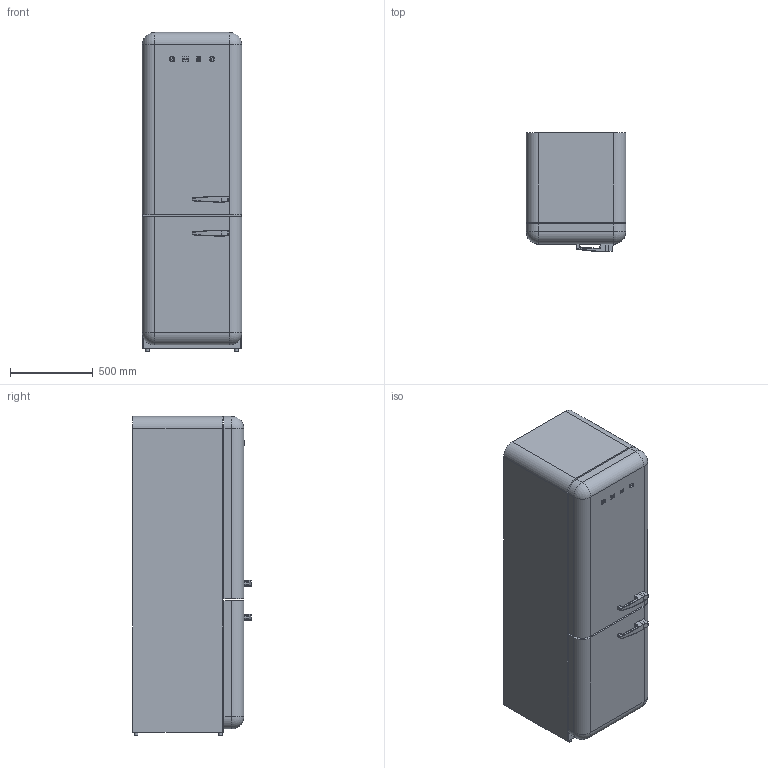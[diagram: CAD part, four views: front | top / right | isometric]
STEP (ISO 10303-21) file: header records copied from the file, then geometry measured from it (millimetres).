
FILE_DESCRIPTION(/* description */ (''),/* implementation_level */ '2;1');
FILE_NAME(/* name */ 'FAB32S.stp',/* time_stamp */ '2017-09-29T09:17:50+02:00',/* author */ (''),/* organization */ (''),/* preprocessor_version */ 'ST-DEVELOPER v16',/* originating_system */ 'SIEMENS PLM Software NX 11.0',/* authorisation */ '');
FILE_SCHEMA (('AUTOMOTIVE_DESIGN { 1 0 10303 214 3 1 1 1 }'));
Length unit declared in the file: millimetre
Products named in the file (1): gras86405DCC13hb
Bounding box: 600 x 715.66 x 1926 mm (x, y, z)
Volume: 756944880.5 mm3; surface area: 5976722.5 mm2
Topology: 7 solids, 7 shells, 254 faces, 664 edges, 424 vertices
Faces by surface type: plane 127, bspline 72, cylinder 51, sphere 4
Full cylindrical faces by diameter (mm): 20 x4
Entity records: 9256 total; most frequent: CARTESIAN_POINT 3305, ORIENTED_EDGE 1304, DIRECTION 1120, EDGE_CURVE 652, VERTEX_POINT 424, AXIS2_PLACEMENT_3D 377, LINE 366, VECTOR 366
